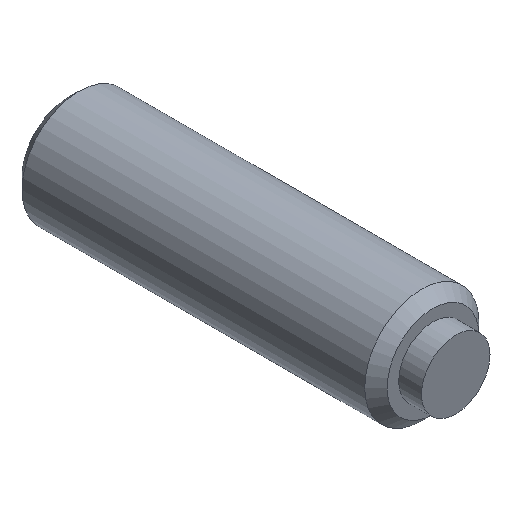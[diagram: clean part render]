
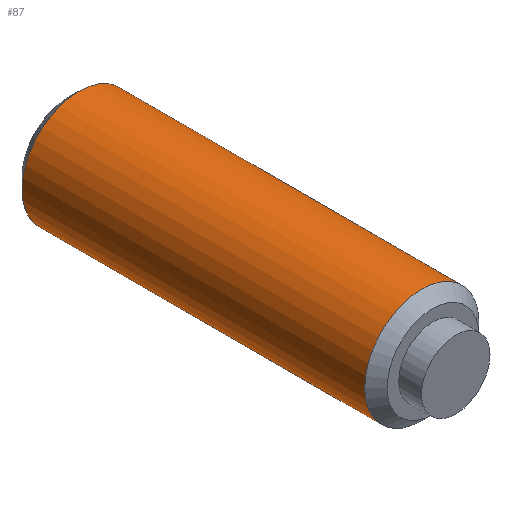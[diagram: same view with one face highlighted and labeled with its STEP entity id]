
A CAD part, isometric view. The second image highlights one B-rep face of the part: STEP entity #87.
In plain terms, the highlighted cylindrical face has radius 2.5 mm (diameter 5 mm), a full revolution.
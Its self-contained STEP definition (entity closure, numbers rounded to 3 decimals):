
#87 = ADVANCED_FACE( '', ( #118, #119 ), #120, .T. );
#118 = FACE_OUTER_BOUND( '', #152, .T. );
#119 = FACE_OUTER_BOUND( '', #153, .T. );
#120 = CYLINDRICAL_SURFACE( '', #154, 2.5 );
#152 = EDGE_LOOP( '', ( #238 ) );
#153 = EDGE_LOOP( '', ( #239 ) );
#154 = AXIS2_PLACEMENT_3D( '', #240, #241, #242 );
#238 = ORIENTED_EDGE( '', *, *, #270, .F. );
#239 = ORIENTED_EDGE( '', *, *, #271, .T. );
#240 = CARTESIAN_POINT( '', ( 0., 0., 0. ) );
#241 = DIRECTION( '', ( 0., 1., 0. ) );
#242 = DIRECTION( '', ( 0., 0., -1. ) );
#270 = EDGE_CURVE( '', #310, #310, #311, .T. );
#271 = EDGE_CURVE( '', #312, #312, #313, .T. );
#310 = VERTEX_POINT( '', #370 );
#311 = CIRCLE( '', #371, 2.5 );
#312 = VERTEX_POINT( '', #372 );
#313 = CIRCLE( '', #373, 2.5 );
#370 = CARTESIAN_POINT( '', ( 0., 1.491, -2.5 ) );
#371 = AXIS2_PLACEMENT_3D( '', #404, #405, #406 );
#372 = CARTESIAN_POINT( '', ( 0., 16.51, -2.5 ) );
#373 = AXIS2_PLACEMENT_3D( '', #407, #408, #409 );
#404 = CARTESIAN_POINT( '', ( 0., 1.491, 0. ) );
#405 = DIRECTION( '', ( 0., -1., 0. ) );
#406 = DIRECTION( '', ( 0., 0., -1. ) );
#407 = CARTESIAN_POINT( '', ( 0., 16.51, 0. ) );
#408 = DIRECTION( '', ( 0., -1., 0. ) );
#409 = DIRECTION( '', ( 0., 0., -1. ) );
